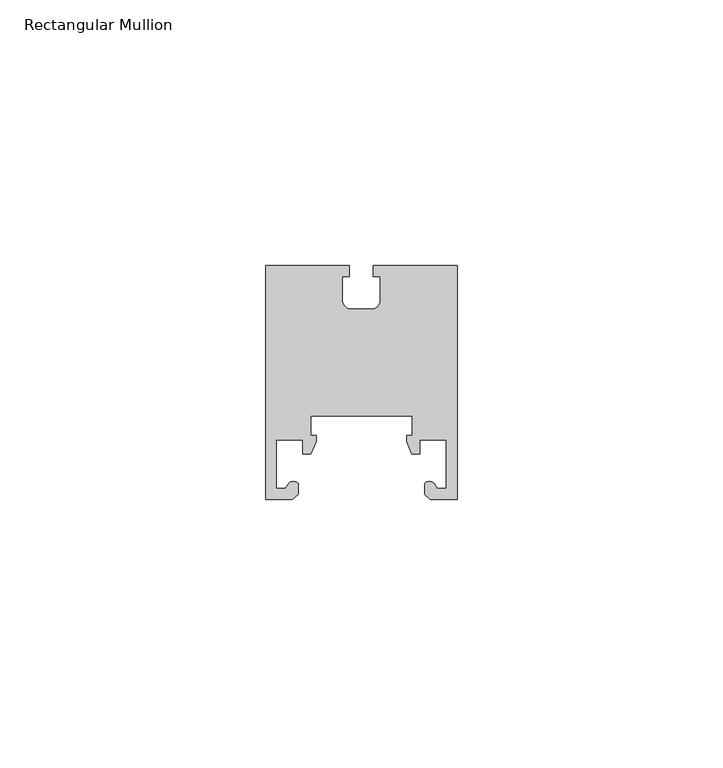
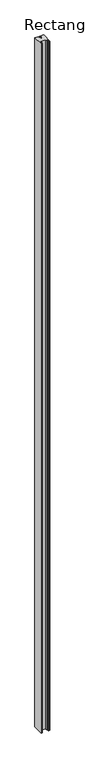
"""IFC4 building model written with IfcOpenShell, lengths in millimetres: member geometry, Rectangular Mullion : LD.0460_renson."""

import ifcopenshell
import ifcopenshell.guid

model = None  # the IFC model being written
_history = None  # IfcOwnerHistory: only IFC2X3 demands one
_inside = {}  # id of a spatial element -> (the spatial element, [elements in it])
_under = {}  # id of a project, library or spatial element -> (it, [spatial elements below it])
_declared = {}  # id of a project -> (the project, [libraries it declares])
_typed = {}  # id of a type object -> (the type object, [elements of that type])
_made_of = {}  # id of a material, layer set ... -> (it, [elements and type objects made of it])


def new_model(schema):
    """Start an empty IFC model of exactly this schema.

    Asked for "IFC4X3", IfcOpenShell would pick the latest addendum, in which some entities
    have other attributes; the version numbers below select the first issue.
    IFC2X3 requires an IfcOwnerHistory on every rooted entity: one is made here for all.
    """
    global model, _history
    if schema == "IFC4X3":
        model = ifcopenshell.file(schema_version=(4, 3, 0, 0))
    else:
        model = ifcopenshell.file(schema=schema)
    _inside.clear()
    _under.clear()
    _declared.clear()
    _typed.clear()
    _made_of.clear()
    _history = None
    if model.schema == "IFC2X3":
        org = make("IfcOrganization", Name="unknown")
        user = make(
            "IfcPersonAndOrganization",
            ThePerson=make("IfcPerson", FamilyName="unknown"),
            TheOrganization=org,
        )
        app = make(
            "IfcApplication",
            ApplicationDeveloper=org,
            Version="unknown",
            ApplicationFullName="unknown",
            ApplicationIdentifier="unknown",
        )
        _history = make(
            "IfcOwnerHistory",
            OwningUser=user,
            OwningApplication=app,
            ChangeAction="ADDED",
            CreationDate=0,
        )
    return model


def make(cls, **values):
    """One entity of the class cls with the attributes given. An attribute that is None is left unset."""
    return model.create_entity(
        cls, **{name: value for name, value in values.items() if value is not None}
    )


def rooted(cls, **values):
    """An entity with a GlobalId (a new one), such as an element, a storey or a relation."""
    return make(cls, GlobalId=ifcopenshell.guid.new(), OwnerHistory=_history, **values)


def si_unit(unit_type, name, prefix=None):
    """IfcSIUnit, for example si_unit("LENGTHUNIT", "METRE", prefix="MILLI")."""
    return make("IfcSIUnit", UnitType=unit_type, Prefix=prefix, Name=name)


def assignment(units):
    """IfcUnitAssignment: the units of a project."""
    return None if units is None else make("IfcUnitAssignment", Units=units)


def point(xyz):
    """IfcCartesianPoint."""
    return None if xyz is None else make("IfcCartesianPoint", Coordinates=xyz)


def direction(xyz):
    """IfcDirection."""
    return None if xyz is None else make("IfcDirection", DirectionRatios=xyz)


def frame(location, z_axis=None, x_axis=None):
    """IfcAxis2Placement3D, a coordinate frame: its origin and axes. An axis left out is left unset."""
    return make(
        "IfcAxis2Placement3D",
        Location=point(location),
        Axis=direction(z_axis),
        RefDirection=direction(x_axis),
    )


def frame_2d(location, x_axis=None):
    """IfcAxis2Placement2D, a coordinate frame in the plane: its origin and x axis."""
    return make(
        "IfcAxis2Placement2D", Location=point(location), RefDirection=direction(x_axis)
    )


def origin():
    """The frame at (0, 0, 0) with its axes left unset."""
    return frame((0.0, 0.0, 0.0))


def place(relative_to, where):
    """IfcLocalPlacement: puts the frame where relative to a parent placement (None: the world)."""
    return make(
        "IfcLocalPlacement", PlacementRelTo=relative_to, RelativePlacement=where
    )


def context(
    kind, dimensions, precision=None, world=None, true_north=None, identifier=None
):
    """IfcGeometricRepresentationContext, for example the 3D "Model" context."""
    return make(
        "IfcGeometricRepresentationContext",
        ContextIdentifier=identifier,
        ContextType=kind,
        CoordinateSpaceDimension=dimensions,
        Precision=precision,
        WorldCoordinateSystem=world,
        TrueNorth=true_north,
    )


def project(units=None, contexts=None):
    """IfcProject with its units and contexts."""
    return rooted(
        "IfcProject",
        Name="project",
        RepresentationContexts=contexts,
        UnitsInContext=assignment(units),
    )


def spatial(cls, under=None, at=None, **own):
    """A site, building, storey or space (cls), placed at a placement, below another one or the project."""
    s = rooted(cls, ObjectPlacement=at, **own)
    if under is not None:
        _under.setdefault(under.id(), (under, []))[1].append(s)
    return s


def polyline(points):
    """IfcPolyline through the points."""
    return make("IfcPolyline", Points=[point(p) for p in points])


def circle_curve(where, radius):
    """IfcCircle in the frame where."""
    return make("IfcCircle", Position=where, Radius=radius)


def trimmed(basis, trim1, trim2, sense, master):
    """IfcTrimmedCurve: the piece of a basis curve between two trims."""
    return make(
        "IfcTrimmedCurve",
        BasisCurve=basis,
        Trim1=trim1,
        Trim2=trim2,
        SenseAgreement=sense,
        MasterRepresentation=master,
    )


def segment(curve, same_sense, transition):
    """IfcCompositeCurveSegment."""
    return make(
        "IfcCompositeCurveSegment",
        Transition=transition,
        SameSense=same_sense,
        ParentCurve=curve,
    )


def composite_curve(segments, self_intersect=None):
    """IfcCompositeCurve: segments joined end to end."""
    return make("IfcCompositeCurve", Segments=segments, SelfIntersect=self_intersect)


def outline(outer, holes=None, kind="AREA"):
    """IfcArbitraryClosedProfileDef: a profile drawn as a closed curve; with holes, ...WithVoids."""
    if holes is None:
        return make("IfcArbitraryClosedProfileDef", ProfileType=kind, OuterCurve=outer)
    return make(
        "IfcArbitraryProfileDefWithVoids",
        ProfileType=kind,
        OuterCurve=outer,
        InnerCurves=holes,
    )


def extrude(swept, where, along, depth):
    """IfcExtrudedAreaSolid: the profile swept, set in the frame where, extruded along a direction by depth."""
    return make(
        "IfcExtrudedAreaSolid",
        SweptArea=swept,
        Position=where,
        ExtrudedDirection=direction(along),
        Depth=depth,
    )


def shape(context_of_items, identifier, shape_type, items):
    """IfcShapeRepresentation: the items that make up one representation, for example the "Body"."""
    return make(
        "IfcShapeRepresentation",
        ContextOfItems=context_of_items,
        RepresentationIdentifier=identifier,
        RepresentationType=shape_type,
        Items=items,
    )


def source(mapping_origin, context_of_items, identifier, shape_type, items):
    """IfcRepresentationMap: a shape defined once, which mapped items show again and again."""
    return make(
        "IfcRepresentationMap",
        MappingOrigin=mapping_origin,
        MappedRepresentation=shape(context_of_items, identifier, shape_type, items),
    )


def transform(
    local_origin,
    x_axis=None,
    y_axis=None,
    z_axis=None,
    scale=None,
    scale2=None,
    scale3=None,
    uniform=True,
):
    """IfcCartesianTransformationOperator3D, or its non-uniform kind. x_axis, y_axis, z_axis: its Axis1, 2, 3."""
    if uniform:
        return make(
            "IfcCartesianTransformationOperator3D",
            Axis1=direction(x_axis),
            Axis2=direction(y_axis),
            LocalOrigin=point(local_origin),
            Scale=scale,
            Axis3=direction(z_axis),
        )
    return make(
        "IfcCartesianTransformationOperator3DnonUniform",
        Axis1=direction(x_axis),
        Axis2=direction(y_axis),
        LocalOrigin=point(local_origin),
        Scale=scale,
        Axis3=direction(z_axis),
        Scale2=scale2,
        Scale3=scale3,
    )


def mapped(mapping_source, mapping_target):
    """IfcMappedItem: shows the shape of a source again, moved by a transform."""
    return make(
        "IfcMappedItem", MappingSource=mapping_source, MappingTarget=mapping_target
    )


def made_of(thing, what):
    """Note that an element or type object is made of a material, layer set ...; save() writes the relation."""
    if what is not None:
        _made_of.setdefault(what.id(), (what, []))[1].append(thing)
    return thing


def element(
    cls,
    number,
    at=None,
    inside=None,
    cuts=None,
    type_object=None,
    material=None,
    context=None,
    identifier="Body",
    shape_type=None,
    held_by="IfcProductDefinitionShape",
    body=None,
    shapes=None,
    **own,
):
    """One element of the class cls, such as IfcWall. Its Tag is "e" and its number.

    at: its placement. inside: the storey or other place that contains it. cuts: it is an
    opening in that element (IfcRelVoidsElement). A single representation is given by context,
    identifier, shape_type and body (its items); several are given by shapes. held_by: the class
    of the entity that holds the representations. save() writes the other relations.
    """
    e = rooted(cls, Tag="e%d" % number, ObjectPlacement=at, **own)
    if body is not None:
        shapes = [shape(context, identifier, shape_type, body)]
    if shapes is not None:
        e.Representation = make(held_by, Representations=shapes)
    if inside is not None:
        _inside.setdefault(inside.id(), (inside, []))[1].append(e)
    if cuts is not None:
        rooted(
            "IfcRelVoidsElement", RelatingBuildingElement=cuts, RelatedOpeningElement=e
        )
    if type_object is not None:
        _typed.setdefault(type_object.id(), (type_object, []))[1].append(e)
    return made_of(e, material)


def aggregate(whole, parts):
    """IfcRelAggregates: a whole, such as a stair, and the parts it consists of."""
    return rooted("IfcRelAggregates", RelatingObject=whole, RelatedObjects=parts)


def save(model, path):
    """Write the relations noted so far, then the file.

    IfcRelAggregates (storeys below a building ...), IfcRelContainedInSpatialStructure (elements
    in a storey), IfcRelDefinesByType, IfcRelAssociatesMaterial and IfcRelDeclares: one each for
    every whole, place, type object, material and project.
    """
    for whole, parts in _under.values():
        aggregate(whole, parts)
    for where, things in _inside.values():
        rooted(
            "IfcRelContainedInSpatialStructure",
            RelatedElements=things,
            RelatingStructure=where,
        )
    for kind, things in _typed.values():
        rooted("IfcRelDefinesByType", RelatedObjects=things, RelatingType=kind)
    for what, things in _made_of.values():
        rooted("IfcRelAssociatesMaterial", RelatedObjects=things, RelatingMaterial=what)
    for by, libraries in _declared.values():
        rooted("IfcRelDeclares", RelatingContext=by, RelatedDefinitions=libraries)
    model.write(path)


def rectangular_mullion_21e3ddae(model_context):
    return source(origin(), model_context, "Body", "SweptSolid", [
        extrude(outline(composite_curve([segment(polyline([(18.0, -45.0), (13.0, -45.0), (11.8999059, -44.0769114), (11.8999059, -42.061549)]), True, "CONTINUOUS"), segment(trimmed(circle_curve(frame_2d((12.7950072, -42.8498072)), 1.1927101), [point((11.8999059, -42.061549))], [point((13.6901084, -42.061549))], False, "CARTESIAN"), True, "CONTINUOUS"), segment(polyline([(13.6901084, -42.061549), (14.3252443, -42.9686169), (16.0, -42.9686169), (16.0, -33.8153021), (11.0249909, -33.8153021), (11.0249909, -36.4593247), (9.5067296, -36.4593247), (8.4980468, -34.083017), (8.4980468, -32.9566029), (9.5375453, -32.9566029), (9.5375453, -29.3621189), (-9.5375453, -29.3621189), (-9.5375453, -32.9566029), (-8.4980468, -32.9566029), (-8.4980468, -34.083017), (-9.5067296, -36.4593247), (-11.0249909, -36.4593247), (-11.0249909, -33.8153021), (-16.0, -33.8153021), (-16.0, -42.9686169), (-14.3252443, -42.9686169), (-13.6901084, -42.061549)]), True, "CONTINUOUS"), segment(trimmed(circle_curve(frame_2d((-12.7950072, -42.8498072)), 1.1927101), [point((-13.6901084, -42.061549))], [point((-11.8999059, -42.061549))], False, "CARTESIAN"), True, "CONTINUOUS"), segment(polyline([(-11.8999059, -42.061549), (-11.8999059, -44.0769114), (-13.0, -45.0), (-18.0, -45.0), (-18.0, -1.0), (-2.2489445, -1.0), (-2.2489445, -3.0843142), (-3.59041, -3.0843142), (-3.59041, -7.4667227)]), True, "CONTINUOUS"), segment(trimmed(circle_curve(frame_2d((-1.8285608, -7.4667227)), 1.7618492), [point((-3.59041, -7.4667227))], [point((-2.0972447, -9.2079641))], True, "CARTESIAN"), True, "CONTINUOUS"), segment(polyline([(-2.0972447, -9.2079641), (1.559877, -9.2079641)]), True, "CONTINUOUS"), segment(trimmed(circle_curve(frame_2d((1.8285608, -7.4667227)), 1.7618492), [point((1.559877, -9.2079641))], [point((3.59041, -7.4667227))], True, "CARTESIAN"), True, "CONTINUOUS"), segment(polyline([(3.59041, -7.4667227), (3.59041, -3.0843142), (2.2489445, -3.0843142), (2.2489445, -1.0), (18.0, -1.0), (18.0, -45.0)]), True, "CONTINUOUS")], self_intersect=False)), frame((0.0, 0.0, -3000.0), z_axis=(0.0, 0.0, 1.0), x_axis=(1.0, 0.0, 0.0)), (0.0, 0.0, 1.0), 3000.0),
    ])


if __name__ == "__main__":
    model = new_model("IFC4")
    model_context = context("Model", 3, world=origin())
    ifc_project = project(units=[si_unit("LENGTHUNIT", "METRE", prefix="MILLI")], contexts=[model_context])
    site = spatial("IfcSite", under=ifc_project)
    building = spatial("IfcBuilding", under=site)
    placement = place(None, origin())
    rectangular_mullion_shape = rectangular_mullion_21e3ddae(model_context)
    element("IfcMember", 1, ObjectType="Rectangular Mullion : LD.0460_renson", at=placement, inside=building, context=model_context, shape_type="MappedRepresentation", body=[
        mapped(rectangular_mullion_shape, transform((0.0, 0.0, 0.0), x_axis=(1.0, 0.0, 0.0), y_axis=(0.0, 1.0, 0.0), z_axis=(0.0, 0.0, 1.0))),
    ])
    save(model, "model.ifc")
